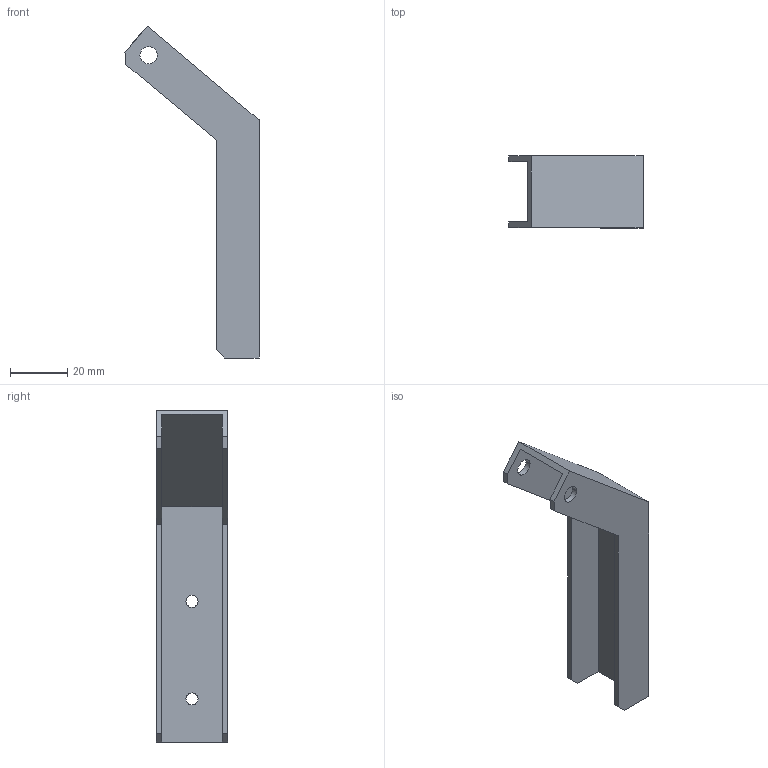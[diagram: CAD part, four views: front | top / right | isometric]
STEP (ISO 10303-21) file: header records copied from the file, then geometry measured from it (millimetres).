
FILE_DESCRIPTION(('CATIA V5 STEP Exchange'),'2;1');
FILE_NAME('C:\Users\Hashaam\Documents\CAD_Project\review\Reservoir_Holderr.stp','2026-10-06T14:11:11+00:00',('none'),('none'),'CATIA Version 5 Release 21 GA (IN-10)','CATIA V5 STEP AP203','none');
FILE_SCHEMA(('CONFIG_CONTROL_DESIGN'));
Length unit declared in the file: millimetre
Products named in the file (1): Reservoir_Holder
Bounding box: 46.73 x 25 x 115.67 mm (x, y, z)
Volume: 12990.9 mm3; surface area: 13792.2 mm2
Topology: 1 solids, 1 shells, 26 faces, 72 edges, 48 vertices
Faces by surface type: plane 18, cylinder 8
Entity records: 854 total; most frequent: ORIENTED_EDGE 144, CARTESIAN_POINT 143, DIRECTION 116, EDGE_CURVE 72, VECTOR 56, LINE 56, VERTEX_POINT 48, AXIS2_PLACEMENT_3D 39
